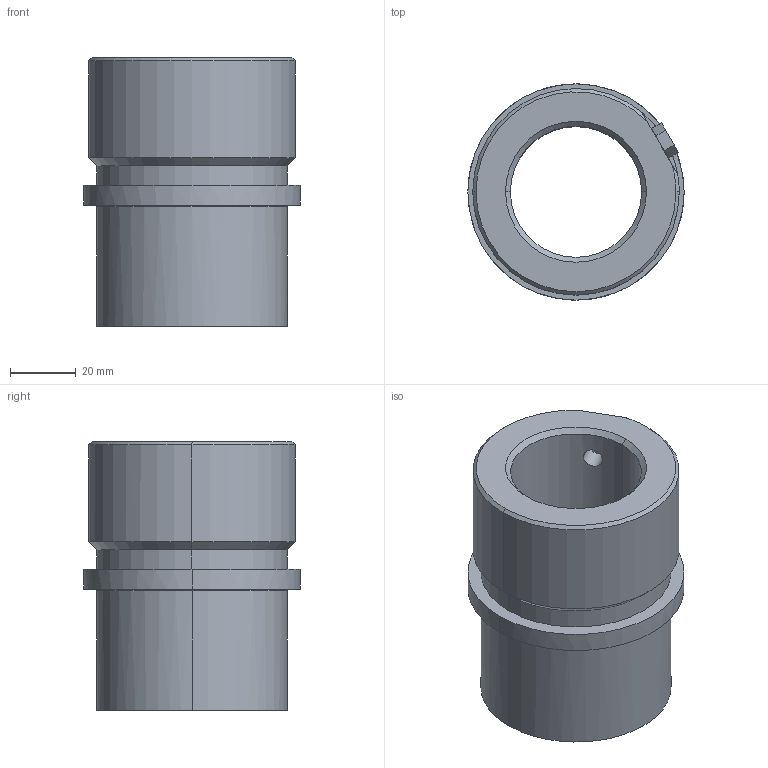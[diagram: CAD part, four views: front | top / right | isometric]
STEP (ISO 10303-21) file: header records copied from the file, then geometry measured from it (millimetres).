
FILE_DESCRIPTION(('CATIA V5 STEP Exchange'),'2;1');
FILE_NAME('C:\Users\Utente\Desktop\IO LAVORO\3D X SITO CF\X SITO\741\741-40.stp','2021-01-20T17:58:39+00:00',('none'),('none'),'CATIA Version 5 Release 20 GA (IN-10)','CATIA V5 STEP AP203','none');
FILE_SCHEMA(('CONFIG_CONTROL_DESIGN'));
Length unit declared in the file: millimetre
Products named in the file (1): 741-40
Assembly tree (1 placements, depth 2):
  741-40
    #58
Bounding box: 66 x 66 x 82 mm (x, y, z)
Volume: 132461.5 mm3; surface area: 31113.9 mm2
Topology: 1 solids, 1 shells, 42 faces, 93 edges, 58 vertices
Faces by surface type: plane 15, cylinder 14, cone 9, torus 4
Entity records: 1337 total; most frequent: CARTESIAN_POINT 369, ORIENTED_EDGE 186, DIRECTION 168, EDGE_CURVE 93, AXIS2_PLACEMENT_3D 81, VERTEX_POINT 58, EDGE_LOOP 49, VECTOR 44
